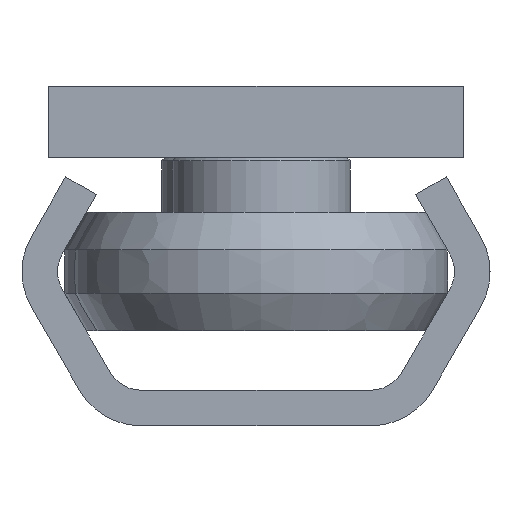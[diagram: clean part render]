
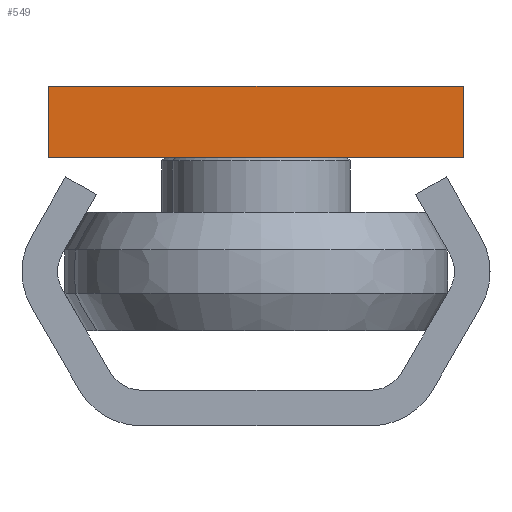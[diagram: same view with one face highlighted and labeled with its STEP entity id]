
A CAD part, left-side view. The second image highlights one B-rep face of the part: STEP entity #549.
In plain terms, the highlighted planar face has unit normal (-1, 0, 0).
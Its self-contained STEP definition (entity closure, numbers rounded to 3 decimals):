
#549 = ADVANCED_FACE( '', ( #1128 ), #1129, .F. );
#1128 = FACE_OUTER_BOUND( '', #1876, .T. );
#1129 = PLANE( '', #1877 );
#1876 = EDGE_LOOP( '', ( #2973, #2974, #2975, #2976 ) );
#1877 = AXIS2_PLACEMENT_3D( '', #2977, #2978, #2979 );
#2973 = ORIENTED_EDGE( '', *, *, #3334, .F. );
#2974 = ORIENTED_EDGE( '', *, *, #3702, .F. );
#2975 = ORIENTED_EDGE( '', *, *, #3474, .F. );
#2976 = ORIENTED_EDGE( '', *, *, #3703, .F. );
#2977 = CARTESIAN_POINT( '', ( 0., 0., 0. ) );
#2978 = DIRECTION( '', ( 1., 0., 0. ) );
#2979 = DIRECTION( '', ( 0., 0., -1. ) );
#3334 = EDGE_CURVE( '', #3798, #3799, #3800, .T. );
#3474 = EDGE_CURVE( '', #4031, #4032, #4033, .T. );
#3702 = EDGE_CURVE( '', #4032, #3798, #4366, .T. );
#3703 = EDGE_CURVE( '', #3799, #4031, #4367, .T. );
#3798 = VERTEX_POINT( '', #4471 );
#3799 = VERTEX_POINT( '', #4472 );
#3800 = LINE( '', #4473, #4474 );
#4031 = VERTEX_POINT( '', #4773 );
#4032 = VERTEX_POINT( '', #4774 );
#4033 = LINE( '', #4775, #4776 );
#4366 = LINE( '', #5275, #5276 );
#4367 = LINE( '', #5277, #5278 );
#4471 = CARTESIAN_POINT( '', ( 0., 35., 0. ) );
#4472 = CARTESIAN_POINT( '', ( 0., 35., 6. ) );
#4473 = CARTESIAN_POINT( '', ( 0., 35., 0. ) );
#4474 = VECTOR( '', #5397, 1000. );
#4773 = CARTESIAN_POINT( '', ( 0., 0., 6. ) );
#4774 = CARTESIAN_POINT( '', ( 0., 0., 0. ) );
#4775 = CARTESIAN_POINT( '', ( 0., 0., 6. ) );
#4776 = VECTOR( '', #5606, 1000. );
#5275 = CARTESIAN_POINT( '', ( 0., 0., 0. ) );
#5276 = VECTOR( '', #5899, 1000. );
#5277 = CARTESIAN_POINT( '', ( 0., 35., 6. ) );
#5278 = VECTOR( '', #5900, 1000. );
#5397 = DIRECTION( '', ( 0., 0., 1. ) );
#5606 = DIRECTION( '', ( 0., 0., -1. ) );
#5899 = DIRECTION( '', ( 0., 1., 0. ) );
#5900 = DIRECTION( '', ( 0., -1., 0. ) );
